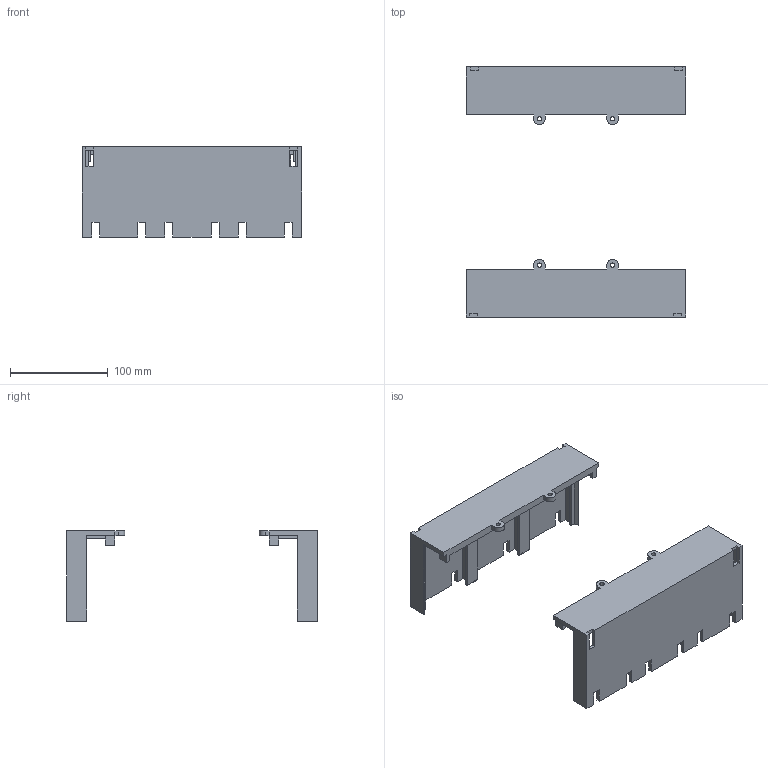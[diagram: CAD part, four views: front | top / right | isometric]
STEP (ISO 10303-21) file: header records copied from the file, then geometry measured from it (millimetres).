
FILE_DESCRIPTION (( 'STEP AP214' ), '1' );
FILE_NAME ('ÂÀ57-39 Êðûøêà êëåììíàÿ äëÿ çàäíåãî ïðèñîåäèíåíèÿ.STEP', '2023-07-14T06:25:33', ( '' ), ( '' ), 'SwSTEP 2.0', 'SolidWorks 2018', '' );
FILE_SCHEMA (( 'AUTOMOTIVE_DESIGN' ));
Length unit declared in the file: millimetre
Products named in the file (1): ÂÀ57-39 Êðûøêà êëåììíàÿ äëÿ çàäíåãî ïðèñîåäèíåíèÿ
Bounding box: 224.8 x 256.57 x 92.4 mm (x, y, z)
Volume: 278324.4 mm3; surface area: 166340 mm2
Topology: 2 solids, 2 shells, 278 faces, 828 edges, 546 vertices
Faces by surface type: plane 238, cylinder 40
Entity records: 12317 total; most frequent: CARTESIAN_POINT 1665, ORIENTED_EDGE 1656, DIRECTION 1458, EDGE_CURVE 828, LINE 748, VECTOR 748, VERTEX_POINT 546, AXIS2_PLACEMENT_3D 355
